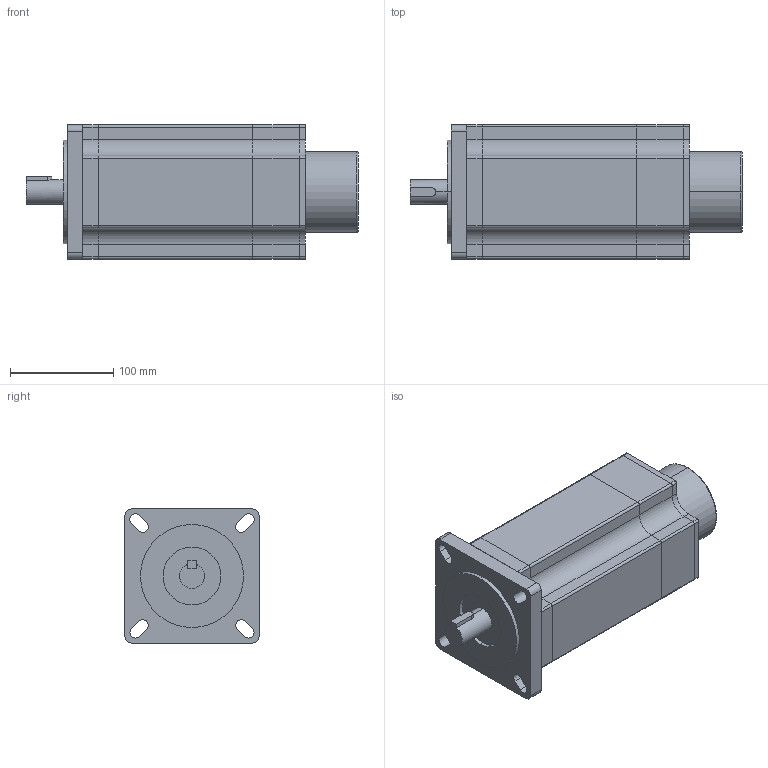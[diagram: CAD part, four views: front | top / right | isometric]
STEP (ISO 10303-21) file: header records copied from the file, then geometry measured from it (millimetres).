
FILE_DESCRIPTION (( 'STEP AP203' ), '1' );
FILE_NAME ('TM5402C68A-P1000.STEP', '2019-02-23T02:00:16', ( 'User' ), ( 'www.dadighost.com' ), 'SwSTEP 2.0', 'SolidWorks 2014', '' );
FILE_SCHEMA (( 'CONFIG_CONTROL_DESIGN' ));
Length unit declared in the file: millimetre
Products named in the file (1): TM5402C68A-P1000
Bounding box: 322 x 130 x 130 mm (x, y, z)
Volume: 3427792.6 mm3; surface area: 273764.4 mm2
Topology: 6 solids, 6 shells, 159 faces, 426 edges, 283 vertices
Faces by surface type: plane 82, cylinder 75, torus 2
Entity records: 5121 total; most frequent: CARTESIAN_POINT 903, DIRECTION 896, ORIENTED_EDGE 852, EDGE_CURVE 426, AXIS2_PLACEMENT_3D 312, VERTEX_POINT 283, LINE 272, VECTOR 272
